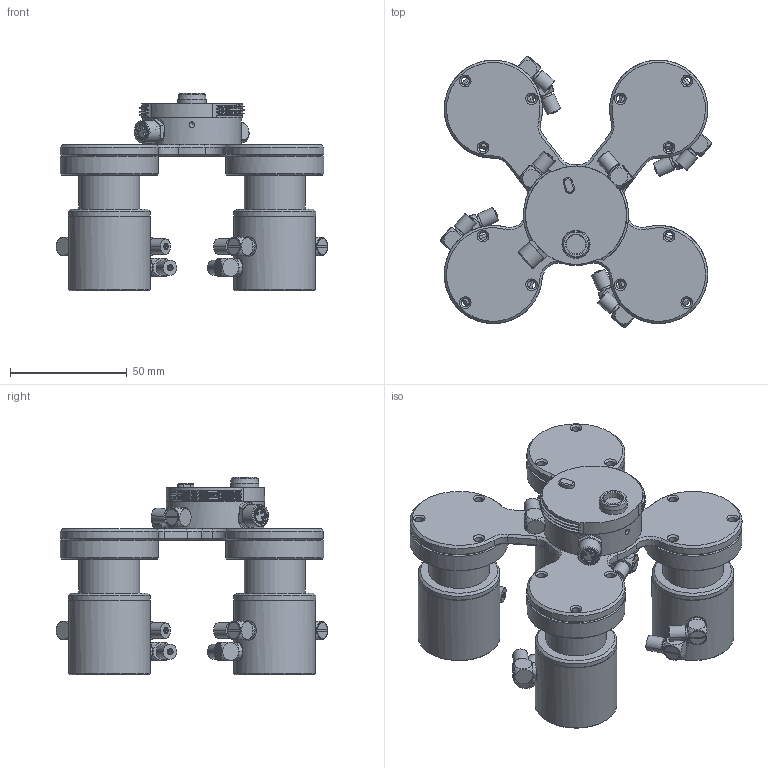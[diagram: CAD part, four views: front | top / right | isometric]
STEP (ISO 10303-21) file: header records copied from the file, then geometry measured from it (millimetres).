
FILE_DESCRIPTION(/* description */ (''),/* implementation_level */ '2;1');
FILE_NAME(/* name */ 'C:\Users\Uffe Safeldt\Dropbox\SoftBox_Documents\Inventor\QuickTool\CAD\MG-P35x4.stp',/* time_stamp */ '2023-11-13T15:42:39+01:00',/* author */ ('Uffe Safeldt'),/* organization */ (''),/* preprocessor_version */ 'ST-DEVELOPER v15.2',/* originating_system */ 'Autodesk Inventor 2014',/* authorisation */ '');
FILE_SCHEMA (('CONFIG_CONTROL_DESIGN'));
Length unit declared in the file: millimetre
Products named in the file (1): MG-P35x4
Bounding box: 116.16 x 116.16 x 84.6 mm (x, y, z)
Volume: 270258.2 mm3; surface area: 68103.5 mm2
Topology: 1 solids, 24 shells, 907 faces, 2076 edges, 1372 vertices
Faces by surface type: plane 364, cylinder 331, cone 151, sphere 30, bspline 26, torus 5
Full cylindrical faces by diameter (mm): 0.9 x3, 1.2 x3, 1.5 x6, 1.55 x6, 3.4 x12, 3.5 x15, 4.134 x12, 5.2 x4, 5.65 x1, 6 x1, 6.3 x1, 6.8 x1, 7.2 x6, 8.2 x1, 9.6 x1, 10 x4, 12 x1, 16 x8, 26 x9, 35 x8, 42 x4
Entity records: 28100 total; most frequent: CARTESIAN_POINT 7929, DIRECTION 4290, ORIENTED_EDGE 3510, AXIS2_PLACEMENT_3D 1846, EDGE_CURVE 1755, EDGE_LOOP 1309, VERTEX_POINT 1256, CIRCLE 965
